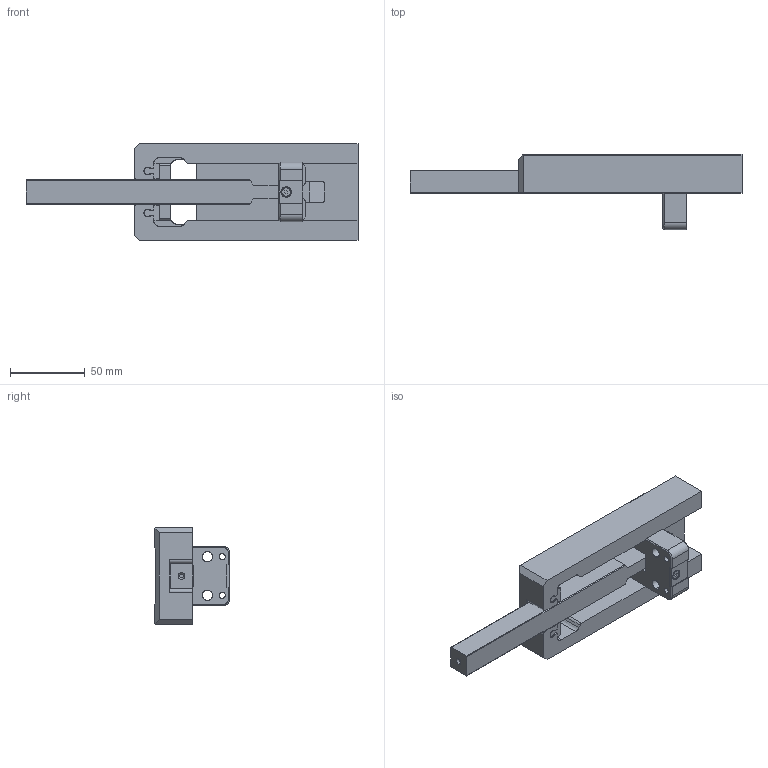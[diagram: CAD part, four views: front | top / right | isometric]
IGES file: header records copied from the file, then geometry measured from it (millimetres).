
Start section: SolidWorks IGES file using analytic representation for surfaces
Global section: file name: G:\CAD\Hakdrag\SA\SA-80(SA65)\SA-80-150-18.igs; native system: SolidWorks 2015; preprocessor: SolidWorks 2015; author: ChBe; date: 150616.070843; units: millimetre
Bounding box: 222.66 x 50.7 x 65 mm (x, y, z)
Surface area: 52988.9 mm2 (no closed solid volume)
Topology: 0 solids, 0 shells, 155 faces, 1772 edges, 1772 vertices
Faces by surface type: bspline 98, revolution 57
